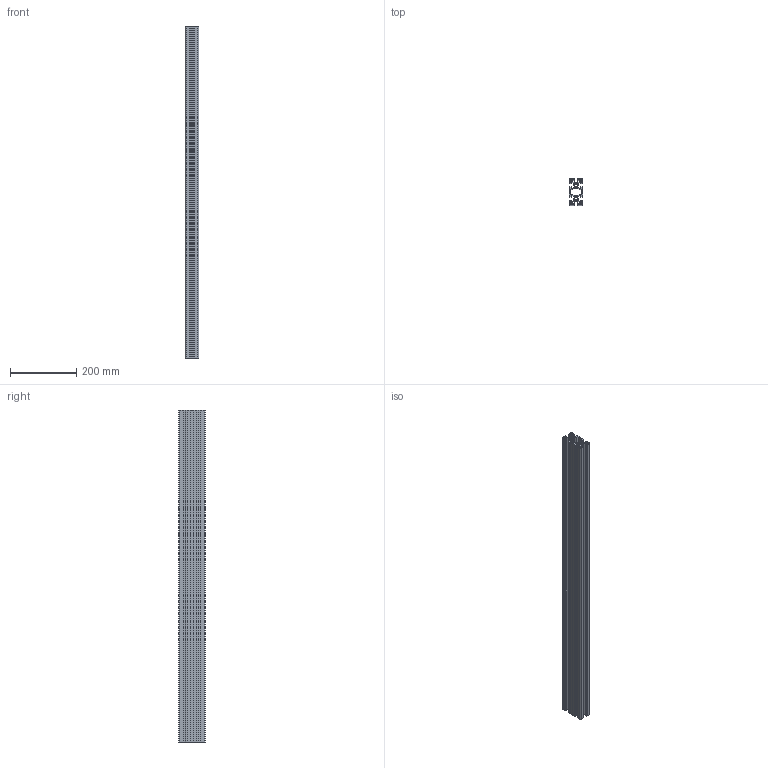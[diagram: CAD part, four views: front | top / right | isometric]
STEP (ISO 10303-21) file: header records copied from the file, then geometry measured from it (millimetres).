
FILE_DESCRIPTION (( 'STEP AP214' ), '1' );
FILE_NAME ('4080S10.STEP', '2018-08-03T05:32:23', ( '' ), ( '' ), 'SwSTEP 2.0', 'SolidWorks 2014', '' );
FILE_SCHEMA (( 'AUTOMOTIVE_DESIGN' ));
Length unit declared in the file: millimetre
Products named in the file (2): 4080S10
Bounding box: 40 x 80 x 1000 mm (x, y, z)
Volume: 933194.8 mm3; surface area: 838507.8 mm2
Topology: 1 solids, 1 shells, 270 faces, 804 edges, 536 vertices
Faces by surface type: plane 190, cylinder 80
Entity records: 9106 total; most frequent: CARTESIAN_POINT 1615, ORIENTED_EDGE 1608, DIRECTION 1507, EDGE_CURVE 804, VECTOR 643, LINE 643, VERTEX_POINT 536, AXIS2_PLACEMENT_3D 432
